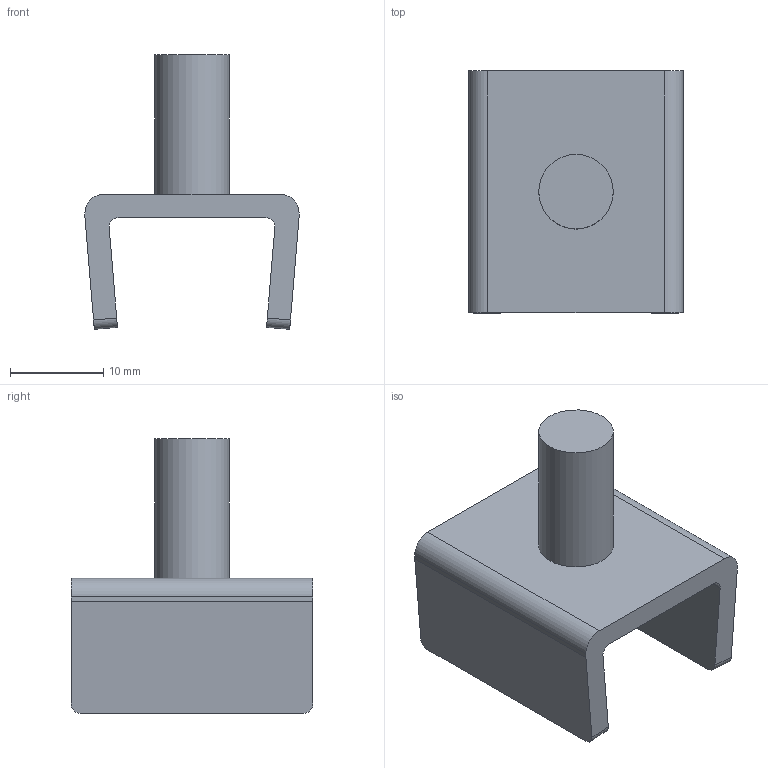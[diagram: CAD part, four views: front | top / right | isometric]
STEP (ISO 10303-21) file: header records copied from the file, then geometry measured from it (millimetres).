
FILE_DESCRIPTION(/* description */ ('Klemstuk M8 SP131004'),/* implementation_level */ '2;1');
FILE_NAME(/* name */ 'C:\Users\apromt\Desktop\tekeningen\stp\SG1400110001.stp',/* time_stamp */ '2021-11-11T10:45:37+01:00',/* author */ ('RdeGreef'),/* organization */ ('BCK Holland b.v.'),/* preprocessor_version */ 'ST-DEVELOPER v18.1',/* originating_system */ 'Autodesk Inventor 2021',/* authorisation */ '');
FILE_SCHEMA (('AUTOMOTIVE_DESIGN { 1 0 10303 214 3 1 1 }'));
Length unit declared in the file: millimetre
Products named in the file (1): SG1400110001
Bounding box: 23 x 26 x 29.5 mm (x, y, z)
Volume: 3767.6 mm3; surface area: 3098.3 mm2
Topology: 1 solids, 1 shells, 22 faces, 57 edges, 38 vertices
Faces by surface type: plane 13, cylinder 9
Full cylindrical faces by diameter (mm): 8 x1
Entity records: 720 total; most frequent: DIRECTION 121, CARTESIAN_POINT 118, ORIENTED_EDGE 114, EDGE_CURVE 57, AXIS2_PLACEMENT_3D 41, LINE 39, VECTOR 39, VERTEX_POINT 38
